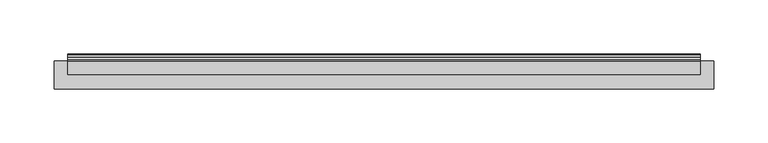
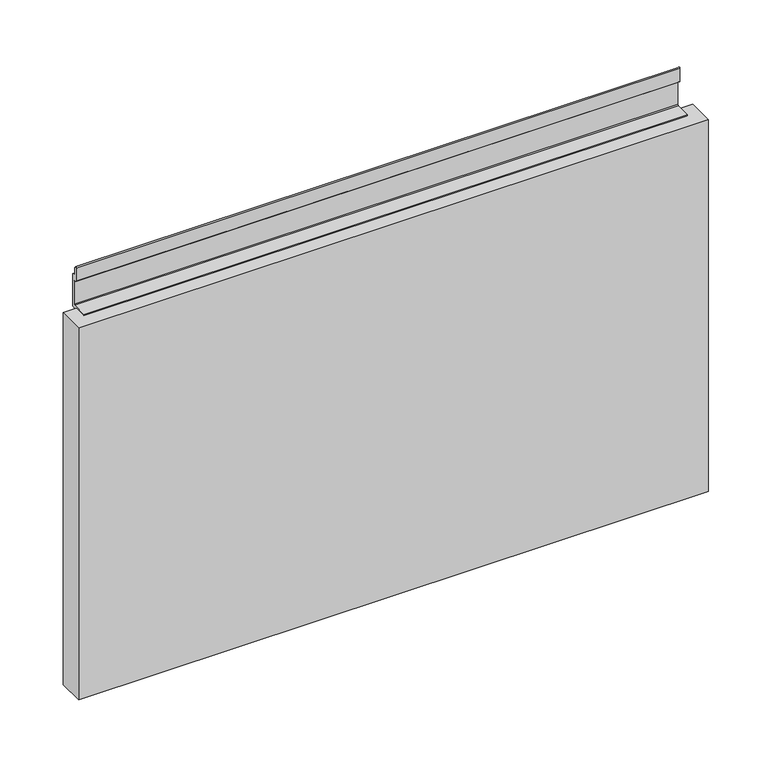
"""IFC4 building model written with IfcOpenShell, lengths in millimetres: furniture geometry, Geiger_GeigerOneCasegoods_WallTileAcceptsTileAbove : TFL 24Wx 1.25Dx 15H."""

from ifc_helpers import new_model, si_unit, point, frame, frame_2d, origin, origin_with_axes, place, context, project, spatial, polyline, circle_curve, trimmed, segment, composite_curve, outline, extrude, source, transform, mapped, element, save


def furniture_af06311f(model_context):
    return source(origin(), model_context, "Body", "SweptSolid", [
        extrude(outline(polyline([(609.6, 0.0), (609.6, -26.0), (0.0, -26.0), (0.0, 0.0), (609.6, 0.0)])), origin_with_axes(), (0.0, 0.0, 1.0), 381.0),
        extrude(outline(composite_curve([segment(polyline([(2.8956, 46.3366), (3.7084, 45.5238), (5.588, 45.5238), (6.4008, 44.7364), (6.4008, 31.3252)]), True, "CONTINUOUS"), segment(trimmed(circle_curve(frame_2d((5.6011704, 31.3252)), 0.7996296), [point((6.4008, 31.3252))], [point((5.0292, 30.7664))], False, "CARTESIAN"), True, "CONTINUOUS"), segment(polyline([(5.0292, 30.7664), (3.5052, 32.2904), (3.5052, 39.2246), (2.6924, 40.012), (0.7874, 40.012), (0.0, 40.8248), (0.0, 72.524), (1.2954, 72.524), (2.8956, 70.9238), (2.8956, 46.3366)]), True, "CONTINUOUS")], self_intersect=False)), frame((483.6047, 0.0, 0.0), z_axis=(1.0, 0.0, 0.0), x_axis=(0.0, 1.0, 0.0)), (0.0, 0.0, 1.0), 75.9906),
        extrude(outline(composite_curve([segment(polyline([(3.5052, 32.2904), (3.5052, 39.2246), (2.6924, 40.012), (0.7874, 40.012), (0.0, 40.8248), (0.0, 72.524), (1.2954, 72.524), (2.8956, 70.9238), (2.8956, 46.3366), (3.7084, 45.5238), (5.588, 45.5238), (6.4008, 44.7364), (6.4008, 31.3252)]), True, "CONTINUOUS"), segment(trimmed(circle_curve(frame_2d((5.6011704, 31.3252)), 0.7996296), [point((6.4008, 31.3252))], [point((5.0292, 30.7664))], False, "CARTESIAN"), True, "CONTINUOUS"), segment(polyline([(5.0292, 30.7664), (3.5052, 32.2904)]), True, "CONTINUOUS")], self_intersect=False)), frame((49.9953, 0.0, 0.0), z_axis=(1.0, 0.0, 0.0), x_axis=(0.0, 1.0, 0.0)), (0.0, 0.0, 1.0), 76.0094),
        extrude(outline(composite_curve([segment(polyline([(2.8956, 421.2322), (2.8956, 414.298), (3.683, 413.5106), (5.588, 413.5106), (6.4008, 412.6978), (6.4008, 379.3984), (3.7084, 379.3984), (2.8956, 378.611), (2.8956, 364.895), (3.7084, 364.1076), (6.4008, 364.1076), (6.4008, 361.1866), (0.7874, 361.1866), (0.0, 361.9994), (0.0, 380.9986), (-12.5984, 380.9986), (-12.5984, 382.5988), (2.6924, 382.5988), (3.5052, 383.3862), (3.5052, 407.2114), (2.6924, 407.9988), (0.7874, 407.9988), (0.0, 408.8116), (0.0, 422.224282)]), True, "CONTINUOUS"), segment(trimmed(circle_curve(frame_2d((0.788463, 422.224282)), 0.788463), [point((0.0, 422.224282))], [point((1.3459905, 422.7818095))], False, "CARTESIAN"), True, "CONTINUOUS"), segment(polyline([(1.3459905, 422.7818095), (2.8956, 421.2322)]), True, "CONTINUOUS")], self_intersect=False)), frame((12.5, 0.0, 0.0), z_axis=(1.0, 0.0, 0.0), x_axis=(0.0, 1.0, 0.0)), (0.0, 0.0, 1.0), 584.6),
    ])


if __name__ == "__main__":
    model = new_model("IFC4")
    model_context = context("Model", 3, world=origin())
    ifc_project = project(units=[si_unit("LENGTHUNIT", "METRE", prefix="MILLI")], contexts=[model_context])
    site = spatial("IfcSite", under=ifc_project)
    building = spatial("IfcBuilding", under=site)
    placement = place(None, origin())
    furniture_shape = furniture_af06311f(model_context)
    element("IfcFurniture", 1, ObjectType="Geiger_GeigerOneCasegoods_WallTileAcceptsTileAbove : TFL 24Wx 1.25Dx 15H", at=placement, inside=building, context=model_context, shape_type="MappedRepresentation", body=[
        mapped(furniture_shape, transform((0.0, 0.0, 0.0), x_axis=(1.0, 0.0, 0.0), y_axis=(0.0, 1.0, 0.0), z_axis=(0.0, 0.0, 1.0))),
    ])
    save(model, "model.ifc")
